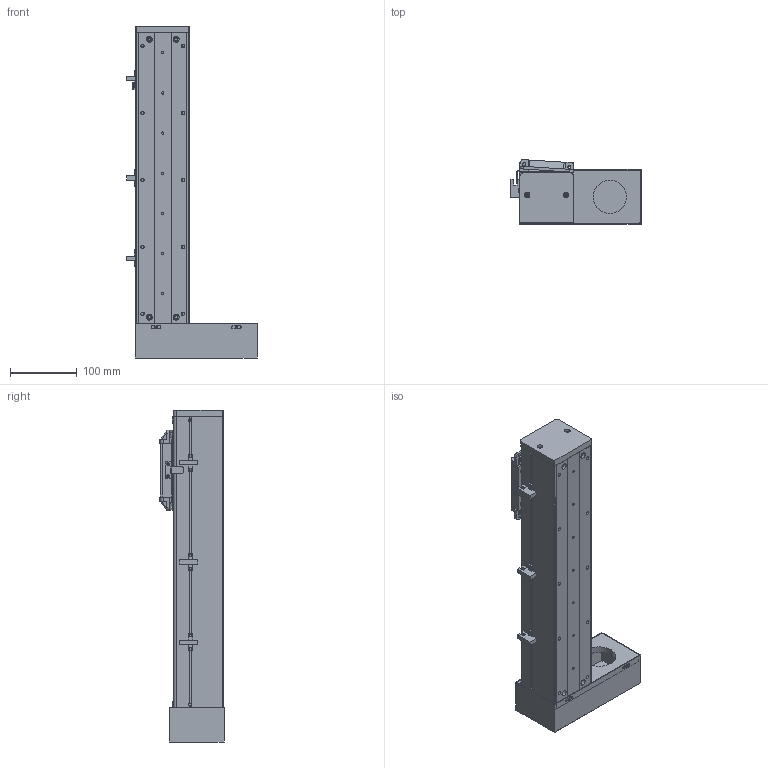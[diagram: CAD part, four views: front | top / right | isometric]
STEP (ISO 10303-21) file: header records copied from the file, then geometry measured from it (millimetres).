
FILE_DESCRIPTION (( 'STEP AP214' ), '1' );
FILE_NAME ('CF80-C-250-FWL.STEP', '2020-01-15T08:26:33', ( '微软用户' ), ( '微软中国' ), 'SwSTEP 2.0', 'SolidWorks 2016', '' );
FILE_SCHEMA (( 'AUTOMOTIVE_DESIGN' ));
Length unit declared in the file: millimetre
Products named in the file (16): CF80菁釱-250; CF80-C-250-FWL; 嫖萇羲壽; 壽萇羲壽覜茼え; CF80-酘殏萇儂啣; 賑雄輸; CF80肮祭謫欶; 詩湍揤啣; CF80詩湍-250; CF80耜啣; 賑雄輸裔啣; CFN80傻嘐隅釱; CF80盓傅釱; EGR15絳寢-250; EGW15CA賑輸; CF80墙板-250
Assembly tree (19 placements, depth 2):
  CF80-C-250-FWL
    CF80菁釱-250
    CF80墙板-250  x2
    EGW15CA賑輸
    EGR15絳寢-250
    CF80盓傅釱
    CFN80傻嘐隅釱
    賑雄輸裔啣
    CF80耜啣
    CF80詩湍-250
    詩湍揤啣  x2
    CF80肮祭謫欶
    賑雄輸
    CF80-酘殏萇儂啣
    壽萇羲壽覜茼え
    嫖萇羲壽  x3
Bounding box: 194.5 x 95.88 x 496 mm (x, y, z)
Volume: 1190252.2 mm3; surface area: 594504.5 mm2
Topology: 19 solids, 19 shells, 854 faces, 2402 edges, 1584 vertices
Faces by surface type: plane 461, cylinder 361, cone 20, bspline 12
Entity records: 27335 total; most frequent: CARTESIAN_POINT 6295, ORIENTED_EDGE 4202, DIRECTION 4137, EDGE_CURVE 2101, AXIS2_PLACEMENT_3D 1416, VERTEX_POINT 1394, VECTOR 1305, LINE 1305
